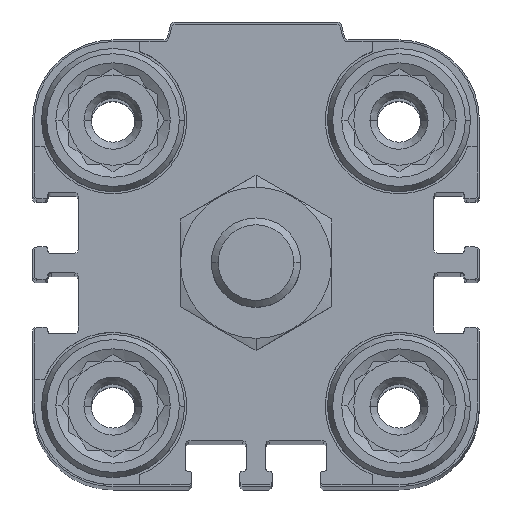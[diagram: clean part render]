
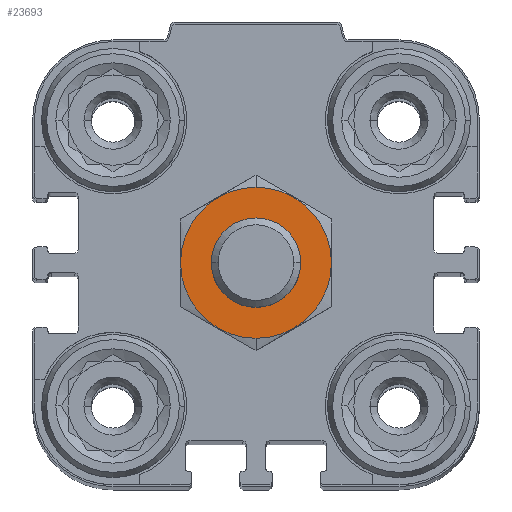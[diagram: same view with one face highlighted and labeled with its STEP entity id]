
A CAD part, top view. The second image highlights one B-rep face of the part: STEP entity #23693.
In plain terms, the highlighted planar face has unit normal (0, 0, 1).
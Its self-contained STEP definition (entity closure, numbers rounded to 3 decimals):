
#189 = AXIS2_PLACEMENT_3D ( 'NONE', #17041, #479, #20802 ) ;
#479 = DIRECTION ( 'NONE',  ( 0., 0., -1. ) ) ;
#997 = FACE_OUTER_BOUND ( 'NONE', #13568, .T. ) ;
#1190 = ORIENTED_EDGE ( 'NONE', *, *, #13556, .T. ) ;
#1769 = CIRCLE ( 'NONE', #17731, 5. ) ;
#2942 = DIRECTION ( 'NONE',  ( 0., 0., -1. ) ) ;
#3593 = CARTESIAN_POINT ( 'NONE',  ( 0., -8.45, 15. ) ) ;
#4222 = DIRECTION ( 'NONE',  ( 0., -1., 0. ) ) ;
#4311 = VERTEX_POINT ( 'NONE', #13156 ) ;
#5580 = AXIS2_PLACEMENT_3D ( 'NONE', #6766, #16387, #20031 ) ;
#5691 = CARTESIAN_POINT ( 'NONE',  ( 0., 0., 15. ) ) ;
#6766 = CARTESIAN_POINT ( 'NONE',  ( 0., 0., 15. ) ) ;
#9274 = AXIS2_PLACEMENT_3D ( 'NONE', #19569, #17859, #12036 ) ;
#10270 = PLANE ( 'NONE',  #18613 ) ;
#10390 = DIRECTION ( 'NONE',  ( 0., -1., 0. ) ) ;
#12036 = DIRECTION ( 'NONE',  ( 0., -1., 0. ) ) ;
#13138 = DIRECTION ( 'NONE',  ( 0., 0., -1. ) ) ;
#13156 = CARTESIAN_POINT ( 'NONE',  ( 0., -5., 15. ) ) ;
#13556 = EDGE_CURVE ( 'NONE', #4311, #19220, #21591, .T. ) ;
#13568 = EDGE_LOOP ( 'NONE', ( #23076, #19113 ) ) ;
#14044 = EDGE_CURVE ( 'NONE', #19220, #4311, #1769, .T. ) ;
#14049 = CARTESIAN_POINT ( 'NONE',  ( 0., 0., 15. ) ) ;
#14923 = CIRCLE ( 'NONE', #5580, 8.45 ) ;
#14986 = EDGE_LOOP ( 'NONE', ( #24040, #1190 ) ) ;
#15397 = VERTEX_POINT ( 'NONE', #3593 ) ;
#16387 = DIRECTION ( 'NONE',  ( 0., 0., -1. ) ) ;
#17041 = CARTESIAN_POINT ( 'NONE',  ( 0., 0., 15. ) ) ;
#17731 = AXIS2_PLACEMENT_3D ( 'NONE', #5691, #13138, #4222 ) ;
#17859 = DIRECTION ( 'NONE',  ( 0., 0., -1. ) ) ;
#18439 = EDGE_CURVE ( 'NONE', #22015, #15397, #14923, .T. ) ;
#18613 = AXIS2_PLACEMENT_3D ( 'NONE', #14049, #2942, #10390 ) ;
#19113 = ORIENTED_EDGE ( 'NONE', *, *, #18439, .F. ) ;
#19220 = VERTEX_POINT ( 'NONE', #19499 ) ;
#19499 = CARTESIAN_POINT ( 'NONE',  ( 0., 5., 15. ) ) ;
#19541 = CARTESIAN_POINT ( 'NONE',  ( 0., 8.45, 15. ) ) ;
#19569 = CARTESIAN_POINT ( 'NONE',  ( 0., 0., 15. ) ) ;
#20031 = DIRECTION ( 'NONE',  ( 0., -1., 0. ) ) ;
#20802 = DIRECTION ( 'NONE',  ( 0., -1., 0. ) ) ;
#21203 = FACE_BOUND ( 'NONE', #14986, .T. ) ;
#21591 = CIRCLE ( 'NONE', #189, 5. ) ;
#21684 = EDGE_CURVE ( 'NONE', #15397, #22015, #23664, .T. ) ;
#22015 = VERTEX_POINT ( 'NONE', #19541 ) ;
#23076 = ORIENTED_EDGE ( 'NONE', *, *, #21684, .F. ) ;
#23664 = CIRCLE ( 'NONE', #9274, 8.45 ) ;
#23693 = ADVANCED_FACE ( 'NONE', ( #997, #21203 ), #10270, .F. ) ;
#24040 = ORIENTED_EDGE ( 'NONE', *, *, #14044, .T. ) ;
